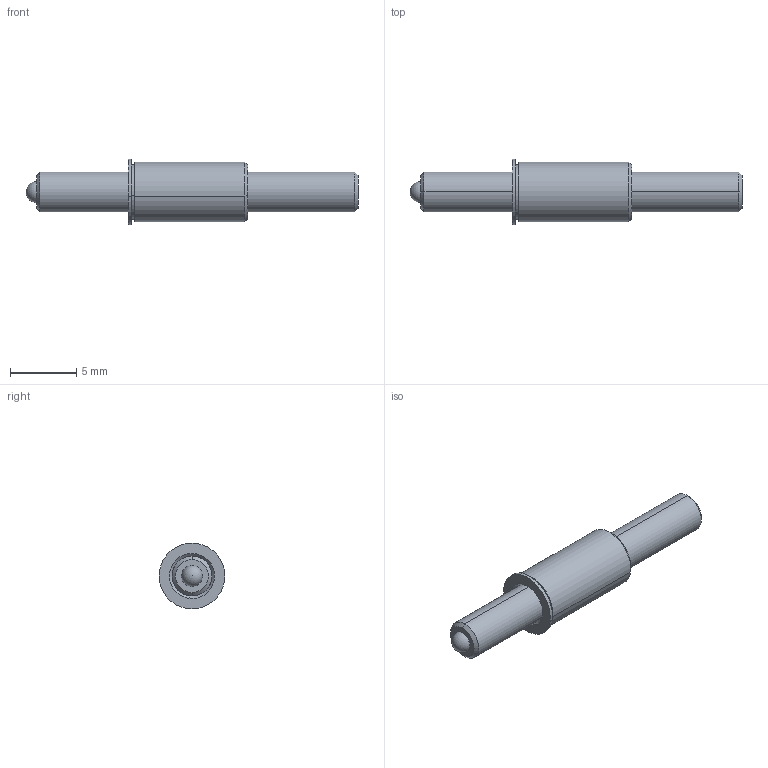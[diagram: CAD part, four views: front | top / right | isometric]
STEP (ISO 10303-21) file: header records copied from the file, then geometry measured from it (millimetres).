
FILE_DESCRIPTION (( 'STEP AP214' ), '1' );
FILE_NAME ('TSBM3-25-25_9.STEP', '2013-03-14T21:08:27', ( 'workpc' ), ( 'Microsoft' ), 'SwSTEP 2.0', 'SolidWorks 2013', '' );
FILE_SCHEMA (( 'AUTOMOTIVE_DESIGN' ));
Length unit declared in the file: inch
Products named in the file (1): TSBM3-25-25_9
Bounding box: 25 x 4.95 x 4.95 mm (x, y, z)
Surface area: 410.7 mm2 (no closed solid volume)
Topology: 0 solids, 3 shells, 32 faces, 75 edges, 49 vertices
Faces by surface type: plane 12, cone 10, cylinder 8, sphere 2
Entity records: 1325 total; most frequent: DIRECTION 170, CARTESIAN_POINT 149, ORIENTED_EDGE 128, EDGE_CURVE 70, AXIS2_PLACEMENT_3D 67, VERTEX_POINT 46, EDGE_LOOP 38, VECTOR 36
